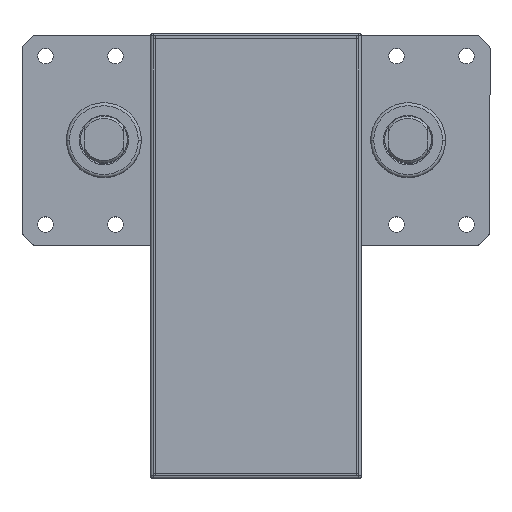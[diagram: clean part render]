
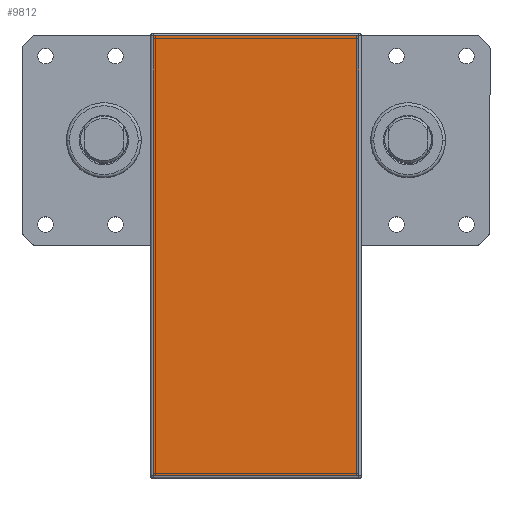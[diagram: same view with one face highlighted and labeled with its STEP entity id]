
A CAD part, top view. The second image highlights one B-rep face of the part: STEP entity #9812.
In plain terms, the highlighted planar face has unit normal (0, 0, 1).
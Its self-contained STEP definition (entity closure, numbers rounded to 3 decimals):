
#521 = EDGE_CURVE ( 'NONE', #36953, #27820, #27058, .T. ) ;
#557 = CARTESIAN_POINT ( 'NONE',  ( -44., -144., 321. ) ) ;
#2122 = PLANE ( 'NONE',  #4570 ) ;
#2359 = ORIENTED_EDGE ( 'NONE', *, *, #24258, .T. ) ;
#3164 = VERTEX_POINT ( 'NONE', #4939 ) ;
#3664 = EDGE_LOOP ( 'NONE', ( #10617, #2359, #37583, #36506 ) ) ;
#4570 = AXIS2_PLACEMENT_3D ( 'NONE', #12726, #36028, #16081 ) ;
#4939 = CARTESIAN_POINT ( 'NONE',  ( 44., 44., 321. ) ) ;
#5425 = EDGE_CURVE ( 'NONE', #26249, #3164, #38543, .T. ) ;
#6553 = CARTESIAN_POINT ( 'NONE',  ( 44., -144., 321. ) ) ;
#6798 = DIRECTION ( 'NONE',  ( 0., -1., 0. ) ) ;
#9812 = ADVANCED_FACE ( 'NONE', ( #10149 ), #2122, .T. ) ;
#10149 = FACE_OUTER_BOUND ( 'NONE', #3664, .T. ) ;
#10617 = ORIENTED_EDGE ( 'NONE', *, *, #521, .T. ) ;
#10955 = VECTOR ( 'NONE', #12092, 1000. ) ;
#12092 = DIRECTION ( 'NONE',  ( 0., 1., 0. ) ) ;
#12726 = CARTESIAN_POINT ( 'NONE',  ( -44., -144., 321. ) ) ;
#15588 = CARTESIAN_POINT ( 'NONE',  ( -44., 44., 321. ) ) ;
#16081 = DIRECTION ( 'NONE',  ( 1., 0., 0. ) ) ;
#19904 = LINE ( 'NONE', #6553, #27727 ) ;
#20765 = VECTOR ( 'NONE', #28204, 1000. ) ;
#21144 = CARTESIAN_POINT ( 'NONE',  ( 44., -144., 321. ) ) ;
#24258 = EDGE_CURVE ( 'NONE', #27820, #26249, #19904, .T. ) ;
#26249 = VERTEX_POINT ( 'NONE', #21144 ) ;
#26691 = CARTESIAN_POINT ( 'NONE',  ( -44., -144., 321. ) ) ;
#27058 = LINE ( 'NONE', #26691, #34882 ) ;
#27727 = VECTOR ( 'NONE', #29793, 1000. ) ;
#27820 = VERTEX_POINT ( 'NONE', #557 ) ;
#28204 = DIRECTION ( 'NONE',  ( -1., 0., 0. ) ) ;
#28590 = LINE ( 'NONE', #31529, #20765 ) ;
#29793 = DIRECTION ( 'NONE',  ( 1., 0., 0. ) ) ;
#30040 = EDGE_CURVE ( 'NONE', #3164, #36953, #28590, .T. ) ;
#31529 = CARTESIAN_POINT ( 'NONE',  ( -44., 44., 321. ) ) ;
#31858 = CARTESIAN_POINT ( 'NONE',  ( 44., 44., 321. ) ) ;
#34882 = VECTOR ( 'NONE', #6798, 1000. ) ;
#36028 = DIRECTION ( 'NONE',  ( 0., 0., 1. ) ) ;
#36506 = ORIENTED_EDGE ( 'NONE', *, *, #30040, .T. ) ;
#36953 = VERTEX_POINT ( 'NONE', #15588 ) ;
#37583 = ORIENTED_EDGE ( 'NONE', *, *, #5425, .T. ) ;
#38543 = LINE ( 'NONE', #31858, #10955 ) ;
